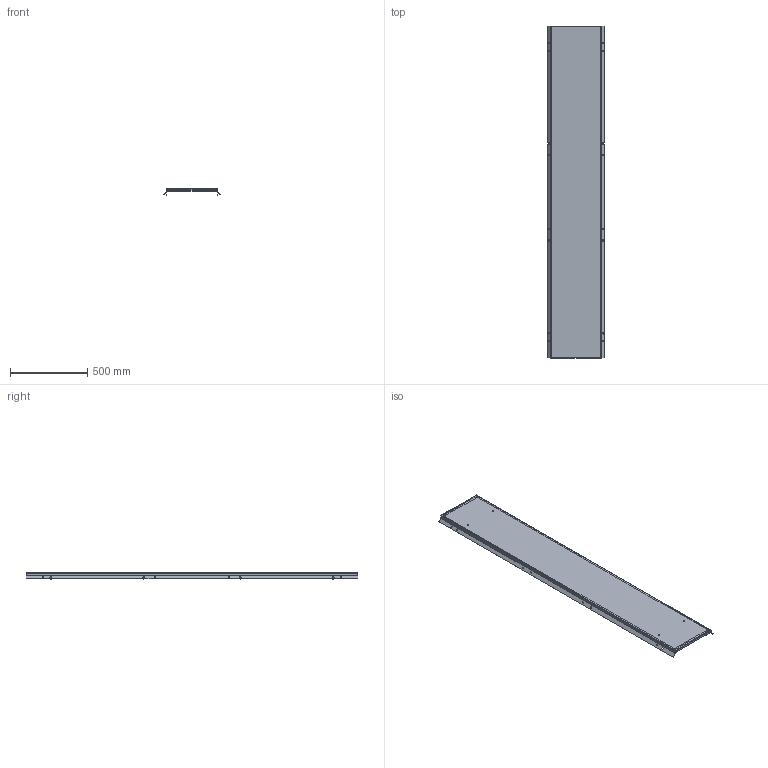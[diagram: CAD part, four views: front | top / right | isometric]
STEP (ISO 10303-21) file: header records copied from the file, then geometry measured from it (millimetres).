
FILE_DESCRIPTION (( 'STEP AP203' ), '1' );
FILE_NAME ('MA1.200.040622.10.00 AleSta-PR224 Ïàíåëü çàäíÿÿ, äëÿ øêàôîâ ALESTA, 2200 x 400.STEP', '2025-02-19T15:08:06', ( '' ), ( '' ), 'SwSTEP 2.0', 'SolidWorks 2021', '' );
FILE_SCHEMA (( 'CONFIG_CONTROL_DESIGN' ));
Length unit declared in the file: millimetre
Products named in the file (6): Øïèëüêà Ì6õ12_˜¯¨«ìª  Œ6å12; MA1.200.040622.10.00 AleSta-PR224  Ïàíåëü çàäíÿÿ, äëÿ øêàôîâ ALESTA, 2200 x 400; MA1.200.060620.11.00 Ïàíåëü çàäíÿÿ, äëÿ øêàôîâ AleSta, 2000x600_2200å400; Óïëîòíèòåëü ïàíåëè íèæíåé_  ‚=2200; Âèíò ñàìîíàðåçàþùèé ñ ïîòàéíîé ãîëîâêîé Ì5x16 DIN 7500 M TORX, êëàññ ïðî÷íîñòè 8.8, îöèíêîâàííàÿ ñòàëü_Œ5å16; MA1.200.060620.11.01 Ïîëîòíî çàäíåé ïàíåëè 2000õ600_2200å400
Assembly tree (15 placements, depth 3):
  MA1.200.040622.10.00 AleSta-PR224  Ïàíåëü çàäíÿÿ, äëÿ øêàôîâ ALESTA, 2200 x 400
    MA1.200.060620.11.00 Ïàíåëü çàäíÿÿ, äëÿ øêàôîâ AleSta, 2000x600_2200å400
      MA1.200.060620.11.01 Ïîëîòíî çàäíåé ïàíåëè 2000õ600_2200å400
      Óïëîòíèòåëü ïàíåëè íèæíåé_  ‚=2200
      Øïèëüêà Ì6õ12_˜¯¨«ìª  Œ6å12  x4
    Âèíò ñàìîíàðåçàþùèé ñ ïîòàéíîé ãîëîâêîé Ì5x16 DIN 7500 M TORX, êëàññ ïðî÷íîñòè 8.8, îöèíêîâàííàÿ ñòàëü_Œ5å16  x8
Bounding box: 365.31 x 2145 x 41.7 mm (x, y, z)
Volume: 1217694.2 mm3; surface area: 1975832.5 mm2
Topology: 14 solids, 14 shells, 544 faces, 1352 edges, 864 vertices
Faces by surface type: cylinder 304, plane 184, cone 40, bspline 8, torus 8
Entity records: 7885 total; most frequent: CARTESIAN_POINT 1623, DIRECTION 1165, ORIENTED_EDGE 1074, EDGE_CURVE 537, AXIS2_PLACEMENT_3D 424, VERTEX_POINT 332, LINE 317, VECTOR 317
